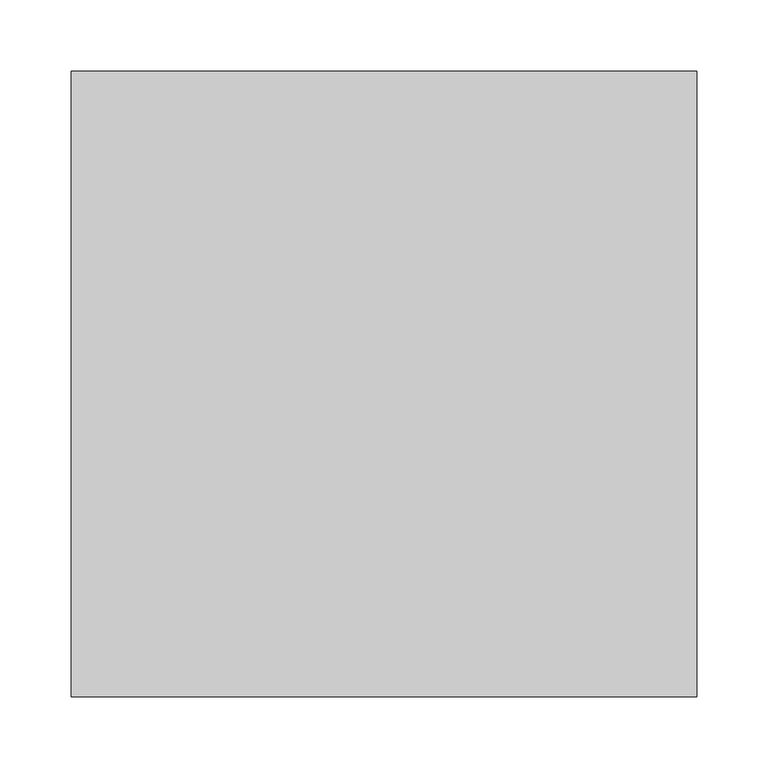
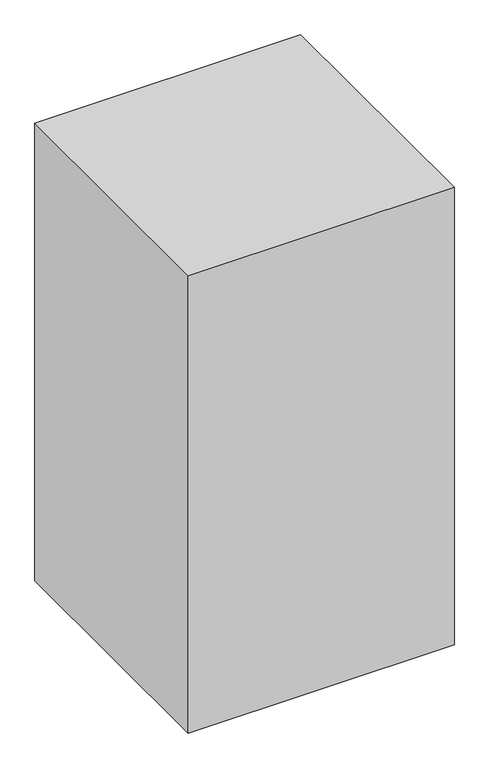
"""IFC4 building model written with IfcOpenShell, lengths in millimetres: proxy geometry, ▲GM_Зона обслуживания : Тип."""

from ifc_helpers import new_model, si_unit, origin, origin_with_axes, place, context, project, spatial, polyline, outline, extrude, source, transform, mapped, element, save


def generic_models_096125e1(model_context):
    return source(origin(), model_context, "Body", "SweptSolid", [
        extrude(outline(polyline([(440.0, -440.0), (0.0, -440.0), (0.0, 0.0), (440.0, 0.0), (440.0, -440.0)])), origin_with_axes(), (0.0, 0.0, 1.0), 800.0),
    ])


if __name__ == "__main__":
    model = new_model("IFC4")
    model_context = context("Model", 3, world=origin())
    ifc_project = project(units=[si_unit("LENGTHUNIT", "METRE", prefix="MILLI")], contexts=[model_context])
    site = spatial("IfcSite", under=ifc_project)
    building = spatial("IfcBuilding", under=site)
    placement = place(None, origin())
    generic_models_shape = generic_models_096125e1(model_context)
    element("IfcBuildingElementProxy", 1, Name="▲GM_Зона обслуживания : Тип", ObjectType="▲GM_Зона обслуживания : Тип", at=placement, inside=building, context=model_context, shape_type="MappedRepresentation", body=[
        mapped(generic_models_shape, transform((0.0, 0.0, 0.0), x_axis=(1.0, 0.0, 0.0), y_axis=(0.0, 1.0, 0.0), z_axis=(0.0, 0.0, 1.0))),
    ])
    save(model, "model.ifc")
